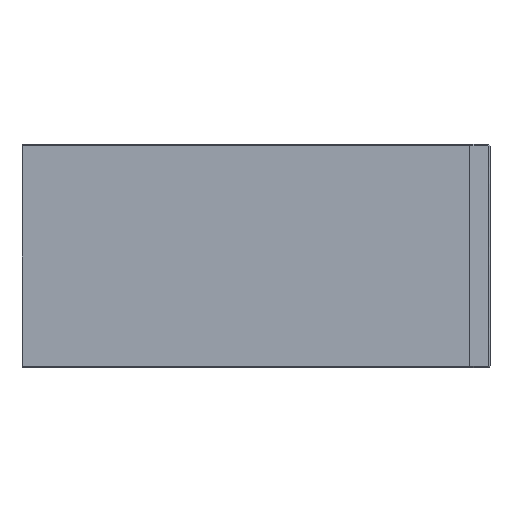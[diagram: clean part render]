
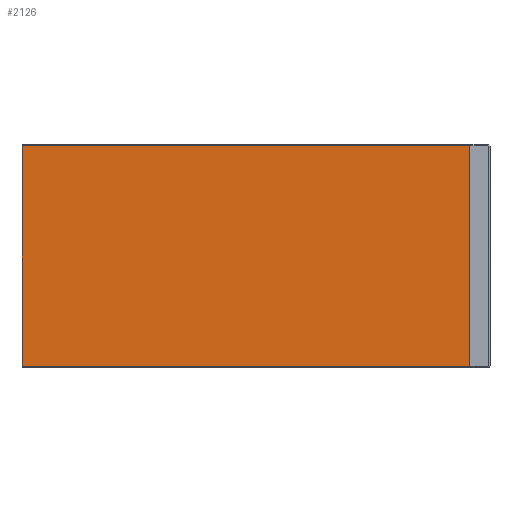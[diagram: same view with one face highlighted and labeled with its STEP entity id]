
A CAD part, left-side view. The second image highlights one B-rep face of the part: STEP entity #2126.
In plain terms, the highlighted free-form (B-spline) face has degree [2, 1] with [3, 2] control points.
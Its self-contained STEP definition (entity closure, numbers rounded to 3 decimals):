
#2126=ADVANCED_FACE('',(#4336),#77878,.T.);
#4336=FACE_OUTER_BOUND('',#6632,.T.);
#6632=EDGE_LOOP('',(#17565,#17566,#17567,#17568));
#17565=ORIENTED_EDGE('',*,*,#56674,.T.);
#17566=ORIENTED_EDGE('',*,*,#56675,.T.);
#17567=ORIENTED_EDGE('',*,*,#56365,.F.);
#17568=ORIENTED_EDGE('',*,*,#56673,.F.);
#19970=(
BOUNDED_CURVE()
B_SPLINE_CURVE(2,(#168239,#168240,#168241),.UNSPECIFIED.,.F.,.F.)
B_SPLINE_CURVE_WITH_KNOTS((3,3),(-509.152,-435.152),
 .UNSPECIFIED.)
CURVE()
GEOMETRIC_REPRESENTATION_ITEM()
RATIONAL_B_SPLINE_CURVE((1.,1.,1.))
REPRESENTATION_ITEM('')
);
#20302=(
BOUNDED_CURVE()
B_SPLINE_CURVE(1,(#170985,#170986),.UNSPECIFIED.,.F.,.F.)
B_SPLINE_CURVE_WITH_KNOTS((2,2),(0.,150.),.UNSPECIFIED.)
CURVE()
GEOMETRIC_REPRESENTATION_ITEM()
RATIONAL_B_SPLINE_CURVE((1.,1.))
REPRESENTATION_ITEM('')
);
#20303=(
BOUNDED_CURVE()
B_SPLINE_CURVE(2,(#170989,#170990,#170991),.UNSPECIFIED.,.F.,.F.)
B_SPLINE_CURVE_WITH_KNOTS((3,3),(-509.152,-435.152),
 .UNSPECIFIED.)
CURVE()
GEOMETRIC_REPRESENTATION_ITEM()
RATIONAL_B_SPLINE_CURVE((1.,1.,1.))
REPRESENTATION_ITEM('')
);
#20304=(
BOUNDED_CURVE()
B_SPLINE_CURVE(1,(#170994,#170995),.UNSPECIFIED.,.F.,.F.)
B_SPLINE_CURVE_WITH_KNOTS((2,2),(0.,150.),.UNSPECIFIED.)
CURVE()
GEOMETRIC_REPRESENTATION_ITEM()
RATIONAL_B_SPLINE_CURVE((1.,1.))
REPRESENTATION_ITEM('')
);
#20398=(
BOUNDED_CURVE()
B_SPLINE_CURVE(2,(#171691,#171692,#171693),.UNSPECIFIED.,.F.,.F.)
B_SPLINE_CURVE_WITH_KNOTS((3,3),(-509.152,-435.152),
 .UNSPECIFIED.)
CURVE()
GEOMETRIC_REPRESENTATION_ITEM()
RATIONAL_B_SPLINE_CURVE((1.,1.,1.))
REPRESENTATION_ITEM('')
);
#31221=PCURVE('',#77656,#43261);
#31810=PCURVE('',#77877,#43850);
#31811=PCURVE('',#77878,#43851);
#31812=PCURVE('',#77878,#43852);
#31813=PCURVE('',#77878,#43853);
#31814=PCURVE('',#77878,#43854);
#31816=PCURVE('',#77879,#43856);
#31975=PCURVE('',#79123,#44015);
#43261=DEFINITIONAL_REPRESENTATION('',(#71430),#177853);
#43850=DEFINITIONAL_REPRESENTATION('',(#71995),#177853);
#43851=DEFINITIONAL_REPRESENTATION('',(#71996),#177853);
#43852=DEFINITIONAL_REPRESENTATION('',(#71997),#177853);
#43853=DEFINITIONAL_REPRESENTATION('',(#71998),#177853);
#43854=DEFINITIONAL_REPRESENTATION('',(#71999),#177853);
#43856=DEFINITIONAL_REPRESENTATION('',(#72001),#177853);
#44015=DEFINITIONAL_REPRESENTATION('',(#20398),#177853);
#50345=SURFACE_CURVE('',#19970,(#31221,#31813),.PCURVE_S1.);
#50653=SURFACE_CURVE('',#20302,(#31810,#31814),.PCURVE_S1.);
#50654=SURFACE_CURVE('',#20303,(#31811,#31975),.PCURVE_S1.);
#50655=SURFACE_CURVE('',#20304,(#31812,#31816),.PCURVE_S1.);
#56365=EDGE_CURVE('',#76322,#76324,#50345,.T.);
#56673=EDGE_CURVE('',#76669,#76322,#50653,.T.);
#56674=EDGE_CURVE('',#76669,#76670,#50654,.T.);
#56675=EDGE_CURVE('',#76670,#76324,#50655,.T.);
#71430=B_SPLINE_CURVE_WITH_KNOTS('',1,(#168242,#168243),.UNSPECIFIED.,.F.,
 .F.,(2,2),(-509.152,-435.152),.UNSPECIFIED.);
#71995=B_SPLINE_CURVE_WITH_KNOTS('',1,(#170987,#170988),.UNSPECIFIED.,.F.,
 .F.,(2,2),(0.,150.),.UNSPECIFIED.);
#71996=B_SPLINE_CURVE_WITH_KNOTS('',1,(#170992,#170993),.UNSPECIFIED.,.F.,
 .F.,(2,2),(-509.152,-435.152),.UNSPECIFIED.);
#71997=B_SPLINE_CURVE_WITH_KNOTS('',1,(#170996,#170997),.UNSPECIFIED.,.F.,
 .F.,(2,2),(0.,150.),.UNSPECIFIED.);
#71998=B_SPLINE_CURVE_WITH_KNOTS('',1,(#170998,#170999),.UNSPECIFIED.,.F.,
 .F.,(2,2),(-509.152,-435.152),.UNSPECIFIED.);
#71999=B_SPLINE_CURVE_WITH_KNOTS('',1,(#171000,#171001),.UNSPECIFIED.,.F.,
 .F.,(2,2),(0.,150.),.UNSPECIFIED.);
#72001=B_SPLINE_CURVE_WITH_KNOTS('',1,(#171012,#171013),.UNSPECIFIED.,.F.,
 .F.,(2,2),(0.,150.),.UNSPECIFIED.);
#76322=VERTEX_POINT('',#165388);
#76324=VERTEX_POINT('',#165390);
#76669=VERTEX_POINT('',#165735);
#76670=VERTEX_POINT('',#165736);
#77656=(
BOUNDED_SURFACE()
B_SPLINE_SURFACE(1,2,((#162912,#162913,#162914),(#162915,#162916,#162917)),
 .UNSPECIFIED.,.F.,.F.,.F.)
B_SPLINE_SURFACE_WITH_KNOTS((2,2),(3,3),(0.,150.),(-509.152,-435.152),
 .UNSPECIFIED.)
GEOMETRIC_REPRESENTATION_ITEM()
RATIONAL_B_SPLINE_SURFACE(((1.,1.,1.),(1.,1.,1.)))
REPRESENTATION_ITEM('')
SURFACE()
);
#77877=(
BOUNDED_SURFACE()
B_SPLINE_SURFACE(2,1,((#164482,#164483),(#164484,#164485),(#164486,#164487)),
 .UNSPECIFIED.,.F.,.F.,.F.)
B_SPLINE_SURFACE_WITH_KNOTS((3,3),(2,2),(-509.937,-509.152),
(0.,150.),.UNSPECIFIED.)
GEOMETRIC_REPRESENTATION_ITEM()
RATIONAL_B_SPLINE_SURFACE(((1.,1.),(0.707,0.707),
(1.,1.)))
REPRESENTATION_ITEM('')
SURFACE()
);
#77878=(
BOUNDED_SURFACE()
B_SPLINE_SURFACE(2,1,((#164488,#164489),(#164490,#164491),(#164492,#164493)),
 .UNSPECIFIED.,.F.,.F.,.F.)
B_SPLINE_SURFACE_WITH_KNOTS((3,3),(2,2),(-509.152,-435.152),
(0.,150.),.UNSPECIFIED.)
GEOMETRIC_REPRESENTATION_ITEM()
RATIONAL_B_SPLINE_SURFACE(((1.,1.),(1.,1.),(1.,1.)))
REPRESENTATION_ITEM('')
SURFACE()
);
#77879=(
BOUNDED_SURFACE()
B_SPLINE_SURFACE(2,1,((#164494,#164495),(#164496,#164497),(#164498,#164499)),
 .UNSPECIFIED.,.F.,.F.,.F.)
B_SPLINE_SURFACE_WITH_KNOTS((3,3),(2,2),(-435.152,-434.366),
(0.,150.),.UNSPECIFIED.)
GEOMETRIC_REPRESENTATION_ITEM()
RATIONAL_B_SPLINE_SURFACE(((1.,1.),(0.707,0.707),
(1.,1.)))
REPRESENTATION_ITEM('')
SURFACE()
);
#79123=B_SPLINE_SURFACE_WITH_KNOTS('',1,1,((#165248,#165249),(#165250,#165251)),
 .UNSPECIFIED.,.F.,.F.,.F.,(2,2),(2,2),(-34.998,58.752),
(-52.575,16.175),.UNSPECIFIED.);
#162912=CARTESIAN_POINT('',(122.5,150.,0.5));
#162913=CARTESIAN_POINT('',(122.5,150.,37.5));
#162914=CARTESIAN_POINT('',(122.5,150.,74.5));
#162915=CARTESIAN_POINT('',(-27.5,150.,0.5));
#162916=CARTESIAN_POINT('',(-27.5,150.,37.5));
#162917=CARTESIAN_POINT('',(-27.5,150.,74.5));
#164482=CARTESIAN_POINT('',(-27.,0.,0.));
#164483=CARTESIAN_POINT('',(-27.,150.,0.));
#164484=CARTESIAN_POINT('',(-27.5,0.,0.));
#164485=CARTESIAN_POINT('',(-27.5,150.,0.));
#164486=CARTESIAN_POINT('',(-27.5,0.,0.5));
#164487=CARTESIAN_POINT('',(-27.5,150.,0.5));
#164488=CARTESIAN_POINT('',(-27.5,0.,0.5));
#164489=CARTESIAN_POINT('',(-27.5,150.,0.5));
#164490=CARTESIAN_POINT('',(-27.5,0.,37.5));
#164491=CARTESIAN_POINT('',(-27.5,150.,37.5));
#164492=CARTESIAN_POINT('',(-27.5,0.,74.5));
#164493=CARTESIAN_POINT('',(-27.5,150.,74.5));
#164494=CARTESIAN_POINT('',(-27.5,0.,74.5));
#164495=CARTESIAN_POINT('',(-27.5,150.,74.5));
#164496=CARTESIAN_POINT('',(-27.5,0.,75.));
#164497=CARTESIAN_POINT('',(-27.5,150.,75.));
#164498=CARTESIAN_POINT('',(-27.,0.,75.));
#164499=CARTESIAN_POINT('',(-27.,150.,75.));
#165248=CARTESIAN_POINT('',(34.375,0.,-9.375));
#165249=CARTESIAN_POINT('',(-34.375,0.,-9.375));
#165250=CARTESIAN_POINT('',(34.375,0.,84.375));
#165251=CARTESIAN_POINT('',(-34.375,0.,84.375));
#165388=CARTESIAN_POINT('',(-27.5,150.,0.5));
#165390=CARTESIAN_POINT('',(-27.5,150.,74.5));
#165735=CARTESIAN_POINT('',(-27.5,0.,0.5));
#165736=CARTESIAN_POINT('',(-27.5,0.,74.5));
#168239=CARTESIAN_POINT('',(-27.5,150.,0.5));
#168240=CARTESIAN_POINT('',(-27.5,150.,37.5));
#168241=CARTESIAN_POINT('',(-27.5,150.,74.5));
#168242=CARTESIAN_POINT('',(150.,-509.152));
#168243=CARTESIAN_POINT('',(150.,-435.152));
#170985=CARTESIAN_POINT('',(-27.5,0.,0.5));
#170986=CARTESIAN_POINT('',(-27.5,150.,0.5));
#170987=CARTESIAN_POINT('',(-509.152,0.));
#170988=CARTESIAN_POINT('',(-509.152,150.));
#170989=CARTESIAN_POINT('',(-27.5,0.,0.5));
#170990=CARTESIAN_POINT('',(-27.5,0.,37.5));
#170991=CARTESIAN_POINT('',(-27.5,0.,74.5));
#170992=CARTESIAN_POINT('',(-509.152,0.));
#170993=CARTESIAN_POINT('',(-435.152,0.));
#170994=CARTESIAN_POINT('',(-27.5,0.,74.5));
#170995=CARTESIAN_POINT('',(-27.5,150.,74.5));
#170996=CARTESIAN_POINT('',(-435.152,0.));
#170997=CARTESIAN_POINT('',(-435.152,150.));
#170998=CARTESIAN_POINT('',(-509.152,150.));
#170999=CARTESIAN_POINT('',(-435.152,150.));
#171000=CARTESIAN_POINT('',(-509.152,0.));
#171001=CARTESIAN_POINT('',(-509.152,150.));
#171012=CARTESIAN_POINT('',(-435.152,0.));
#171013=CARTESIAN_POINT('',(-435.152,150.));
#171691=CARTESIAN_POINT('',(-25.123,9.3));
#171692=CARTESIAN_POINT('',(11.877,9.3));
#171693=CARTESIAN_POINT('',(48.877,9.3));
#177853=(
GEOMETRIC_REPRESENTATION_CONTEXT(2)
PARAMETRIC_REPRESENTATION_CONTEXT()
REPRESENTATION_CONTEXT('pspace','')
);
